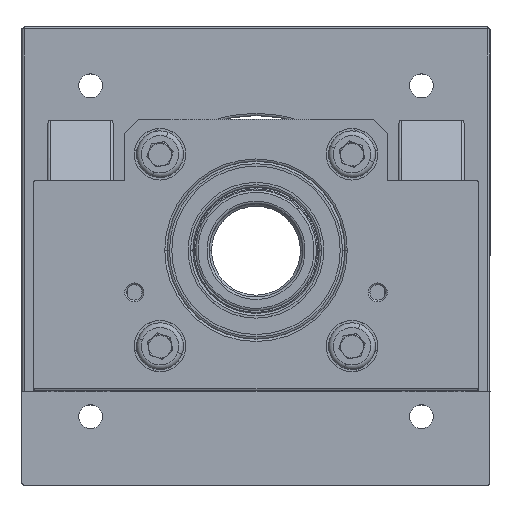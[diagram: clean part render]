
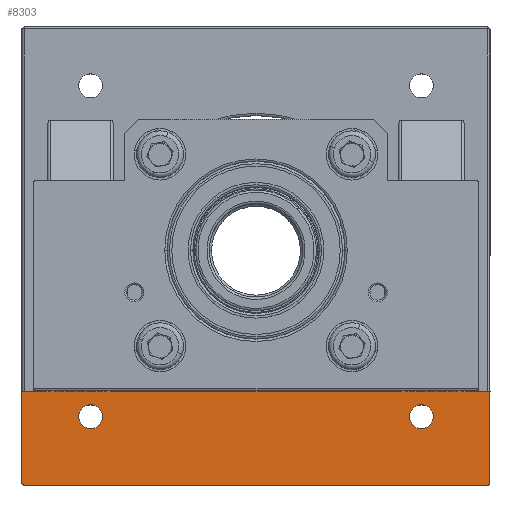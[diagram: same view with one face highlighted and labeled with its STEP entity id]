
A CAD part, top view. The second image highlights one B-rep face of the part: STEP entity #8303.
In plain terms, the highlighted planar face has unit normal (0, 0, 1).
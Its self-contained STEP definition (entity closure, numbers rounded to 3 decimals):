
#183 = VECTOR ( 'NONE', #5716, 1000. ) ;
#244 = VERTEX_POINT ( 'NONE', #5755 ) ;
#420 = LINE ( 'NONE', #4328, #4847 ) ;
#668 = FACE_BOUND ( 'NONE', #9883, .T. ) ;
#797 = VERTEX_POINT ( 'NONE', #1861 ) ;
#1081 = DIRECTION ( 'NONE',  ( 1., 0., 0. ) ) ;
#1159 = DIRECTION ( 'NONE',  ( 0., 0., 1. ) ) ;
#1334 = ORIENTED_EDGE ( 'NONE', *, *, #1940, .T. ) ;
#1356 = VERTEX_POINT ( 'NONE', #3536 ) ;
#1428 = AXIS2_PLACEMENT_3D ( 'NONE', #4304, #10461, #5207 ) ;
#1436 = LINE ( 'NONE', #2156, #183 ) ;
#1473 = CARTESIAN_POINT ( 'NONE',  ( -35.355, -35.355, -115. ) ) ;
#1527 = AXIS2_PLACEMENT_3D ( 'NONE', #10097, #4808, #10956 ) ;
#1772 = VERTEX_POINT ( 'NONE', #9783 ) ;
#1861 = CARTESIAN_POINT ( 'NONE',  ( -32.805, -35.355, -115. ) ) ;
#1881 = CARTESIAN_POINT ( 'NONE',  ( -50., -49.5, -115. ) ) ;
#1882 = DIRECTION ( 'NONE',  ( 0., 0., 1. ) ) ;
#1896 = VERTEX_POINT ( 'NONE', #4445 ) ;
#1940 = EDGE_CURVE ( 'NONE', #9236, #4755, #2781, .T. ) ;
#2156 = CARTESIAN_POINT ( 'NONE',  ( -50., -30., -115. ) ) ;
#2353 = DIRECTION ( 'NONE',  ( -1., 0., 0. ) ) ;
#2436 = CARTESIAN_POINT ( 'NONE',  ( -50., -30., -115. ) ) ;
#2724 = AXIS2_PLACEMENT_3D ( 'NONE', #1473, #7685, #2353 ) ;
#2781 = CIRCLE ( 'NONE', #5526, 0.5 ) ;
#2834 = DIRECTION ( 'NONE',  ( 0., 1., 0. ) ) ;
#2863 = VERTEX_POINT ( 'NONE', #2436 ) ;
#3366 = EDGE_LOOP ( 'NONE', ( #8509, #7334 ) ) ;
#3536 = CARTESIAN_POINT ( 'NONE',  ( 32.805, -35.355, -115. ) ) ;
#3989 = ORIENTED_EDGE ( 'NONE', *, *, #11069, .F. ) ;
#4127 = ORIENTED_EDGE ( 'NONE', *, *, #5719, .T. ) ;
#4174 = CARTESIAN_POINT ( 'NONE',  ( -50., -30., -115. ) ) ;
#4283 = LINE ( 'NONE', #8134, #6354 ) ;
#4304 = CARTESIAN_POINT ( 'NONE',  ( 49.5, -49.5, -115. ) ) ;
#4328 = CARTESIAN_POINT ( 'NONE',  ( -50., -30., -115. ) ) ;
#4368 = CARTESIAN_POINT ( 'NONE',  ( 35.355, -35.355, -115. ) ) ;
#4445 = CARTESIAN_POINT ( 'NONE',  ( -37.905, -35.355, -115. ) ) ;
#4448 = EDGE_CURVE ( 'NONE', #1356, #244, #10277, .T. ) ;
#4755 = VERTEX_POINT ( 'NONE', #8148 ) ;
#4808 = DIRECTION ( 'NONE',  ( 0., 0., 1. ) ) ;
#4847 = VECTOR ( 'NONE', #5238, 1000. ) ;
#4888 = EDGE_CURVE ( 'NONE', #9236, #2863, #1436, .T. ) ;
#5015 = CIRCLE ( 'NONE', #9470, 2.55 ) ;
#5036 = ORIENTED_EDGE ( 'NONE', *, *, #8248, .F. ) ;
#5113 = AXIS2_PLACEMENT_3D ( 'NONE', #4368, #10527, #5273 ) ;
#5207 = DIRECTION ( 'NONE',  ( -1., 0., 0. ) ) ;
#5238 = DIRECTION ( 'NONE',  ( 1., 0., 0. ) ) ;
#5273 = DIRECTION ( 'NONE',  ( -1., 0., 0. ) ) ;
#5308 = ORIENTED_EDGE ( 'NONE', *, *, #6303, .F. ) ;
#5386 = FACE_BOUND ( 'NONE', #3366, .T. ) ;
#5524 = VECTOR ( 'NONE', #1081, 1000. ) ;
#5526 = AXIS2_PLACEMENT_3D ( 'NONE', #7195, #1882, #8105 ) ;
#5686 = AXIS2_PLACEMENT_3D ( 'NONE', #4174, #11211, #5933 ) ;
#5716 = DIRECTION ( 'NONE',  ( 0., 1., 0. ) ) ;
#5719 = EDGE_CURVE ( 'NONE', #1772, #8122, #7514, .T. ) ;
#5755 = CARTESIAN_POINT ( 'NONE',  ( 37.905, -35.355, -115. ) ) ;
#5933 = DIRECTION ( 'NONE',  ( -1., 0., 0. ) ) ;
#6303 = EDGE_CURVE ( 'NONE', #1896, #797, #7226, .T. ) ;
#6354 = VECTOR ( 'NONE', #2834, 1000. ) ;
#6365 = CARTESIAN_POINT ( 'NONE',  ( -50., -50., -115. ) ) ;
#6443 = CARTESIAN_POINT ( 'NONE',  ( 35.355, -35.355, -115. ) ) ;
#6814 = PLANE ( 'NONE',  #5686 ) ;
#7195 = CARTESIAN_POINT ( 'NONE',  ( -49.5, -49.5, -115. ) ) ;
#7226 = CIRCLE ( 'NONE', #1527, 2.55 ) ;
#7334 = ORIENTED_EDGE ( 'NONE', *, *, #9897, .F. ) ;
#7352 = DIRECTION ( 'NONE',  ( -1., 0., 0. ) ) ;
#7446 = EDGE_CURVE ( 'NONE', #8122, #10065, #4283, .T. ) ;
#7462 = FACE_OUTER_BOUND ( 'NONE', #9398, .T. ) ;
#7514 = CIRCLE ( 'NONE', #1428, 0.5 ) ;
#7685 = DIRECTION ( 'NONE',  ( 0., 0., 1. ) ) ;
#7872 = ORIENTED_EDGE ( 'NONE', *, *, #9263, .T. ) ;
#8105 = DIRECTION ( 'NONE',  ( -1., 0., 0. ) ) ;
#8122 = VERTEX_POINT ( 'NONE', #10866 ) ;
#8134 = CARTESIAN_POINT ( 'NONE',  ( 50., -30., -115. ) ) ;
#8148 = CARTESIAN_POINT ( 'NONE',  ( -49.5, -50., -115. ) ) ;
#8248 = EDGE_CURVE ( 'NONE', #797, #1896, #10062, .T. ) ;
#8303 = ADVANCED_FACE ( 'NONE', ( #7462, #5386, #668 ), #6814, .F. ) ;
#8509 = ORIENTED_EDGE ( 'NONE', *, *, #4448, .F. ) ;
#9236 = VERTEX_POINT ( 'NONE', #1881 ) ;
#9263 = EDGE_CURVE ( 'NONE', #4755, #1772, #9647, .T. ) ;
#9339 = CARTESIAN_POINT ( 'NONE',  ( 50., -30., -115. ) ) ;
#9398 = EDGE_LOOP ( 'NONE', ( #1334, #7872, #4127, #10732, #3989, #11310 ) ) ;
#9470 = AXIS2_PLACEMENT_3D ( 'NONE', #6443, #1159, #7352 ) ;
#9647 = LINE ( 'NONE', #6365, #5524 ) ;
#9783 = CARTESIAN_POINT ( 'NONE',  ( 49.5, -50., -115. ) ) ;
#9883 = EDGE_LOOP ( 'NONE', ( #5308, #5036 ) ) ;
#9897 = EDGE_CURVE ( 'NONE', #244, #1356, #5015, .T. ) ;
#10062 = CIRCLE ( 'NONE', #2724, 2.55 ) ;
#10065 = VERTEX_POINT ( 'NONE', #9339 ) ;
#10097 = CARTESIAN_POINT ( 'NONE',  ( -35.355, -35.355, -115. ) ) ;
#10277 = CIRCLE ( 'NONE', #5113, 2.55 ) ;
#10461 = DIRECTION ( 'NONE',  ( 0., 0., 1. ) ) ;
#10527 = DIRECTION ( 'NONE',  ( 0., 0., 1. ) ) ;
#10732 = ORIENTED_EDGE ( 'NONE', *, *, #7446, .T. ) ;
#10866 = CARTESIAN_POINT ( 'NONE',  ( 50., -49.5, -115. ) ) ;
#10956 = DIRECTION ( 'NONE',  ( -1., 0., 0. ) ) ;
#11069 = EDGE_CURVE ( 'NONE', #2863, #10065, #420, .T. ) ;
#11211 = DIRECTION ( 'NONE',  ( 0., 0., -1. ) ) ;
#11310 = ORIENTED_EDGE ( 'NONE', *, *, #4888, .F. ) ;
